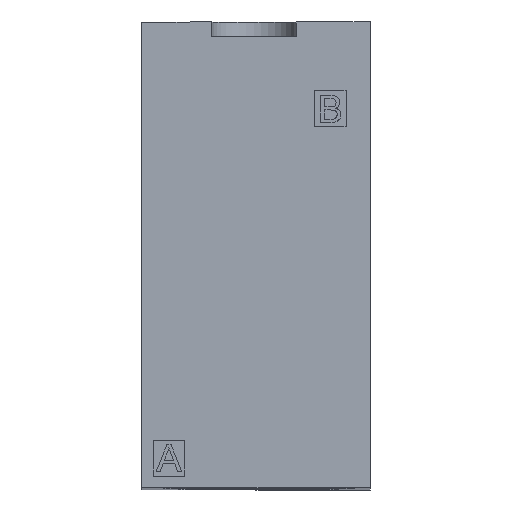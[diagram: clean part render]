
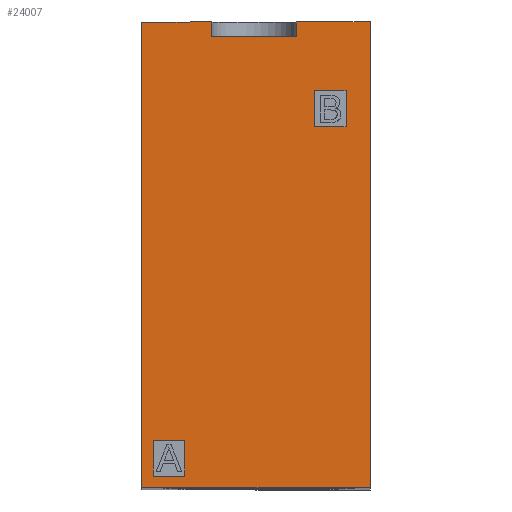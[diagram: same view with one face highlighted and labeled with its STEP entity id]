
A CAD part, top view. The second image highlights one B-rep face of the part: STEP entity #24007.
In plain terms, the highlighted planar face has unit normal (0, 0, 1).
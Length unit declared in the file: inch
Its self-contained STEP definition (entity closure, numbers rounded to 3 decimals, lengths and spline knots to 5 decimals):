
#214 = EDGE_CURVE ( 'NONE', #32415, #936, #11219, .T. ) ;
#323 = EDGE_CURVE ( 'NONE', #26678, #32415, #23237, .T. ) ;
#412 = CARTESIAN_POINT ( 'NONE',  ( -0.19685, 0., 2.77559 ) ) ;
#418 = DIRECTION ( 'NONE',  ( 0., 1., 0. ) ) ;
#479 = ORIENTED_EDGE ( 'NONE', *, *, #14122, .F. ) ;
#537 = LINE ( 'NONE', #33117, #6501 ) ;
#543 = CARTESIAN_POINT ( 'NONE',  ( -0.31299, 0., 2.77559 ) ) ;
#904 = VERTEX_POINT ( 'NONE', #31428 ) ;
#936 = VERTEX_POINT ( 'NONE', #37433 ) ;
#1632 = ORIENTED_EDGE ( 'NONE', *, *, #214, .F. ) ;
#1810 = CARTESIAN_POINT ( 'NONE',  ( 0.50197, 2.06693, 2.77559 ) ) ;
#2014 = CARTESIAN_POINT ( 'NONE',  ( -0.45079, 0., 2.77559 ) ) ;
#2099 = VERTEX_POINT ( 'NONE', #21284 ) ;
#2546 = DIRECTION ( 'NONE',  ( 1., 0., 0. ) ) ;
#3156 = VERTEX_POINT ( 'NONE', #17821 ) ;
#3340 = DIRECTION ( 'NONE',  ( 0., -1., 0. ) ) ;
#3364 = VECTOR ( 'NONE', #7133, 39.37008 ) ;
#3427 = CARTESIAN_POINT ( 'NONE',  ( 0.17717, 2.04724, 2.77559 ) ) ;
#3527 = CARTESIAN_POINT ( 'NONE',  ( 0.50197, 0.05118, 2.77559 ) ) ;
#3651 = CARTESIAN_POINT ( 'NONE',  ( 0.25787, 1.74409, 2.77559 ) ) ;
#3790 = ORIENTED_EDGE ( 'NONE', *, *, #36046, .F. ) ;
#4815 = CARTESIAN_POINT ( 'NONE',  ( -0.50197, 2.04724, 2.77559 ) ) ;
#4881 = LINE ( 'NONE', #3527, #38002 ) ;
#4894 = CARTESIAN_POINT ( 'NONE',  ( 0.50197, 2.04724, 2.77559 ) ) ;
#5235 = ORIENTED_EDGE ( 'NONE', *, *, #7489, .F. ) ;
#5808 = EDGE_CURVE ( 'NONE', #21161, #16281, #20339, .T. ) ;
#5815 = VECTOR ( 'NONE', #28713, 39.37008 ) ;
#6088 = LINE ( 'NONE', #412, #29999 ) ;
#6256 = VERTEX_POINT ( 'NONE', #23660 ) ;
#6501 = VECTOR ( 'NONE', #6738, 39.37008 ) ;
#6738 = DIRECTION ( 'NONE',  ( 0., -1., 0. ) ) ;
#7116 = DIRECTION ( 'NONE',  ( 0., 1., 0. ) ) ;
#7133 = DIRECTION ( 'NONE',  ( -1., 0., 0. ) ) ;
#7489 = EDGE_CURVE ( 'NONE', #16281, #12552, #537, .T. ) ;
#7516 = CARTESIAN_POINT ( 'NONE',  ( -0.45079, 0.05118, 2.77559 ) ) ;
#7841 = CARTESIAN_POINT ( 'NONE',  ( 0.39567, 1.74409, 2.77559 ) ) ;
#8013 = VECTOR ( 'NONE', #418, 39.37008 ) ;
#8205 = LINE ( 'NONE', #34943, #28006 ) ;
#8328 = CARTESIAN_POINT ( 'NONE',  ( 0.50197, 1.74409, 2.77559 ) ) ;
#8388 = CARTESIAN_POINT ( 'NONE',  ( 0.50197, 1.98425, 2.77559 ) ) ;
#8647 = CARTESIAN_POINT ( 'NONE',  ( 0.50197, 0., 2.77559 ) ) ;
#8881 = CARTESIAN_POINT ( 'NONE',  ( 0.17717, 1.98425, 2.77559 ) ) ;
#9118 = DIRECTION ( 'NONE',  ( 0., 1., 0. ) ) ;
#9271 = VECTOR ( 'NONE', #9118, 39.37008 ) ;
#9362 = DIRECTION ( 'NONE',  ( 1., 0., 0. ) ) ;
#9657 = VERTEX_POINT ( 'NONE', #25045 ) ;
#10189 = FACE_BOUND ( 'NONE', #22957, .T. ) ;
#11025 = DIRECTION ( 'NONE',  ( -1., 0., 0. ) ) ;
#11219 = LINE ( 'NONE', #33969, #3364 ) ;
#11780 = CARTESIAN_POINT ( 'NONE',  ( -0.31299, 0.20866, 2.77559 ) ) ;
#11806 = ORIENTED_EDGE ( 'NONE', *, *, #5808, .F. ) ;
#11998 = LINE ( 'NONE', #30268, #13334 ) ;
#12467 = VECTOR ( 'NONE', #11025, 39.37008 ) ;
#12552 = VERTEX_POINT ( 'NONE', #16025 ) ;
#12747 = ORIENTED_EDGE ( 'NONE', *, *, #323, .F. ) ;
#13069 = DIRECTION ( 'NONE',  ( 0., 0., -1. ) ) ;
#13090 = CARTESIAN_POINT ( 'NONE',  ( 0.50197, 1.58661, 2.77559 ) ) ;
#13334 = VECTOR ( 'NONE', #27249, 39.37008 ) ;
#13693 = ORIENTED_EDGE ( 'NONE', *, *, #18244, .F. ) ;
#14122 = EDGE_CURVE ( 'NONE', #26069, #26678, #4881, .T. ) ;
#14460 = DIRECTION ( 'NONE',  ( 1., 0., 0. ) ) ;
#14475 = EDGE_LOOP ( 'NONE', ( #18347, #28558, #14753, #20390, #16428, #26341, #13693, #29759 ) ) ;
#14564 = LINE ( 'NONE', #2014, #37472 ) ;
#14753 = ORIENTED_EDGE ( 'NONE', *, *, #37078, .F. ) ;
#15990 = LINE ( 'NONE', #1810, #5815 ) ;
#16025 = CARTESIAN_POINT ( 'NONE',  ( 0.25787, 1.58661, 2.77559 ) ) ;
#16085 = DIRECTION ( 'NONE',  ( 1., 0., 0. ) ) ;
#16281 = VERTEX_POINT ( 'NONE', #3651 ) ;
#16428 = ORIENTED_EDGE ( 'NONE', *, *, #22208, .T. ) ;
#16497 = VECTOR ( 'NONE', #2546, 39.37008 ) ;
#17436 = LINE ( 'NONE', #8388, #16497 ) ;
#17821 = CARTESIAN_POINT ( 'NONE',  ( 0.50197, 0., 2.77559 ) ) ;
#18244 = EDGE_CURVE ( 'NONE', #27853, #36660, #23184, .T. ) ;
#18347 = ORIENTED_EDGE ( 'NONE', *, *, #29008, .F. ) ;
#19682 = VECTOR ( 'NONE', #29702, 39.37008 ) ;
#19755 = CARTESIAN_POINT ( 'NONE',  ( -0.31299, 0.05118, 2.77559 ) ) ;
#20291 = DIRECTION ( 'NONE',  ( 1., 0., 0. ) ) ;
#20339 = LINE ( 'NONE', #8328, #12467 ) ;
#20390 = ORIENTED_EDGE ( 'NONE', *, *, #22322, .F. ) ;
#20542 = DIRECTION ( 'NONE',  ( -1., 0., 0. ) ) ;
#20968 = EDGE_CURVE ( 'NONE', #21395, #904, #8205, .T. ) ;
#21161 = VERTEX_POINT ( 'NONE', #7841 ) ;
#21230 = PLANE ( 'NONE',  #21766 ) ;
#21284 = CARTESIAN_POINT ( 'NONE',  ( 0.39567, 1.58661, 2.77559 ) ) ;
#21395 = VERTEX_POINT ( 'NONE', #4815 ) ;
#21406 = CARTESIAN_POINT ( 'NONE',  ( 0.39567, 0., 2.77559 ) ) ;
#21766 = AXIS2_PLACEMENT_3D ( 'NONE', #36150, #13069, #7116 ) ;
#21827 = CARTESIAN_POINT ( 'NONE',  ( 0.17717, 0., 2.77559 ) ) ;
#22208 = EDGE_CURVE ( 'NONE', #3156, #35096, #15990, .T. ) ;
#22322 = EDGE_CURVE ( 'NONE', #3156, #9657, #24688, .T. ) ;
#22957 = EDGE_LOOP ( 'NONE', ( #5235, #11806, #32947, #3790 ) ) ;
#23184 = LINE ( 'NONE', #21827, #9271 ) ;
#23237 = LINE ( 'NONE', #543, #8013 ) ;
#23383 = EDGE_CURVE ( 'NONE', #36660, #35096, #31863, .T. ) ;
#23660 = CARTESIAN_POINT ( 'NONE',  ( -0.19685, 1.98425, 2.77559 ) ) ;
#24007 = ADVANCED_FACE ( 'NONE', ( #36372, #10189, #32744 ), #21230, .F. ) ;
#24092 = VECTOR ( 'NONE', #14460, 39.37008 ) ;
#24688 = LINE ( 'NONE', #8647, #34257 ) ;
#25045 = CARTESIAN_POINT ( 'NONE',  ( -0.50197, 0., 2.77559 ) ) ;
#25398 = EDGE_CURVE ( 'NONE', #2099, #21161, #29747, .T. ) ;
#25557 = EDGE_CURVE ( 'NONE', #936, #26069, #14564, .T. ) ;
#26069 = VERTEX_POINT ( 'NONE', #7516 ) ;
#26341 = ORIENTED_EDGE ( 'NONE', *, *, #23383, .F. ) ;
#26678 = VERTEX_POINT ( 'NONE', #19755 ) ;
#26805 = EDGE_LOOP ( 'NONE', ( #31034, #1632, #12747, #479 ) ) ;
#27249 = DIRECTION ( 'NONE',  ( 0., 1., 0. ) ) ;
#27853 = VERTEX_POINT ( 'NONE', #8881 ) ;
#28006 = VECTOR ( 'NONE', #20291, 39.37008 ) ;
#28558 = ORIENTED_EDGE ( 'NONE', *, *, #20968, .F. ) ;
#28713 = DIRECTION ( 'NONE',  ( 0., 1., 0. ) ) ;
#29008 = EDGE_CURVE ( 'NONE', #904, #6256, #6088, .T. ) ;
#29702 = DIRECTION ( 'NONE',  ( 0., 1., 0. ) ) ;
#29747 = LINE ( 'NONE', #21406, #19682 ) ;
#29759 = ORIENTED_EDGE ( 'NONE', *, *, #30287, .F. ) ;
#29999 = VECTOR ( 'NONE', #3340, 39.37008 ) ;
#30268 = CARTESIAN_POINT ( 'NONE',  ( -0.50197, 0., 2.77559 ) ) ;
#30287 = EDGE_CURVE ( 'NONE', #6256, #27853, #17436, .T. ) ;
#31034 = ORIENTED_EDGE ( 'NONE', *, *, #25557, .F. ) ;
#31428 = CARTESIAN_POINT ( 'NONE',  ( -0.19685, 2.04724, 2.77559 ) ) ;
#31863 = LINE ( 'NONE', #38148, #24092 ) ;
#32415 = VERTEX_POINT ( 'NONE', #11780 ) ;
#32744 = FACE_BOUND ( 'NONE', #26805, .T. ) ;
#32947 = ORIENTED_EDGE ( 'NONE', *, *, #25398, .F. ) ;
#33117 = CARTESIAN_POINT ( 'NONE',  ( 0.25787, 0., 2.77559 ) ) ;
#33661 = LINE ( 'NONE', #13090, #36427 ) ;
#33886 = DIRECTION ( 'NONE',  ( 0., -1., 0. ) ) ;
#33969 = CARTESIAN_POINT ( 'NONE',  ( 0.50197, 0.20866, 2.77559 ) ) ;
#34257 = VECTOR ( 'NONE', #20542, 39.37008 ) ;
#34943 = CARTESIAN_POINT ( 'NONE',  ( -0.04823, 2.04724, 2.77559 ) ) ;
#35096 = VERTEX_POINT ( 'NONE', #4894 ) ;
#36046 = EDGE_CURVE ( 'NONE', #12552, #2099, #33661, .T. ) ;
#36150 = CARTESIAN_POINT ( 'NONE',  ( 0.50197, 0., 2.77559 ) ) ;
#36372 = FACE_OUTER_BOUND ( 'NONE', #14475, .T. ) ;
#36427 = VECTOR ( 'NONE', #16085, 39.37008 ) ;
#36660 = VERTEX_POINT ( 'NONE', #3427 ) ;
#37078 = EDGE_CURVE ( 'NONE', #9657, #21395, #11998, .T. ) ;
#37433 = CARTESIAN_POINT ( 'NONE',  ( -0.45079, 0.20866, 2.77559 ) ) ;
#37472 = VECTOR ( 'NONE', #33886, 39.37008 ) ;
#38002 = VECTOR ( 'NONE', #9362, 39.37008 ) ;
#38148 = CARTESIAN_POINT ( 'NONE',  ( -0.04823, 2.04724, 2.77559 ) ) ;
